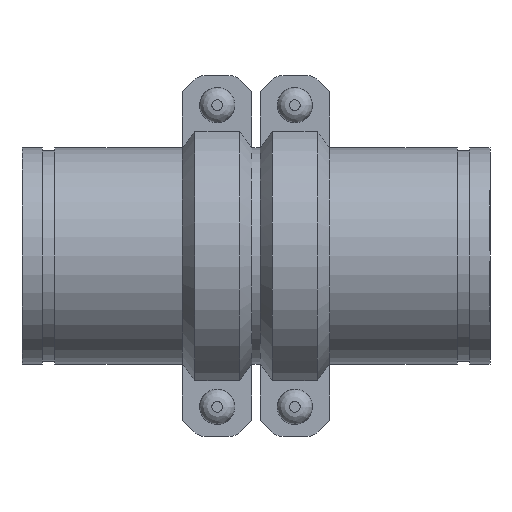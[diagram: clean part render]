
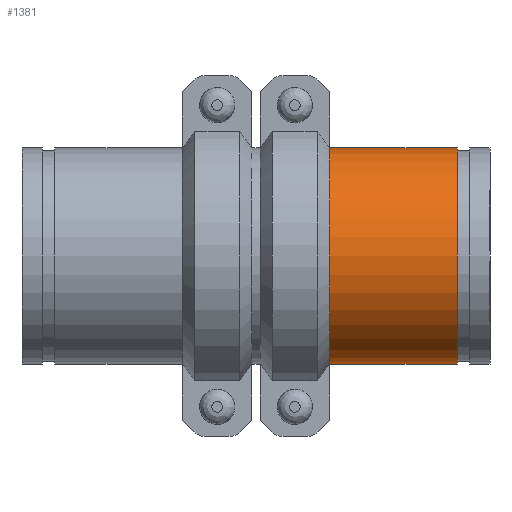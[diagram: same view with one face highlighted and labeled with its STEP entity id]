
A CAD part, front view. The second image highlights one B-rep face of the part: STEP entity #1381.
In plain terms, the highlighted cylindrical face has radius 84.138 mm (diameter 168.275 mm), a full revolution.
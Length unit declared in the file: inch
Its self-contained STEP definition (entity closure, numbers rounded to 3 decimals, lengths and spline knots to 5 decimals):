
#59=LINE('',#2197,#150);
#150=VECTOR('',#1772,3.3125);
#241=CYLINDRICAL_SURFACE('',#1566,3.3125);
#294=FACE_OUTER_BOUND('',#375,.T.);
#375=EDGE_LOOP('',(#908,#909,#910,#911,#912,#913));
#479=CIRCLE('',#1564,3.3125);
#480=CIRCLE('',#1565,3.3125);
#481=CIRCLE('',#1567,3.3125);
#482=CIRCLE('',#1568,3.3125);
#567=VERTEX_POINT('',#2188);
#568=VERTEX_POINT('',#2189);
#569=VERTEX_POINT('',#2193);
#570=VERTEX_POINT('',#2194);
#704=EDGE_CURVE('',#567,#568,#479,.T.);
#705=EDGE_CURVE('',#568,#567,#480,.T.);
#706=EDGE_CURVE('',#569,#570,#481,.T.);
#707=EDGE_CURVE('',#570,#569,#482,.T.);
#708=EDGE_CURVE('',#570,#568,#59,.T.);
#908=ORIENTED_EDGE('',*,*,#706,.F.);
#909=ORIENTED_EDGE('',*,*,#707,.F.);
#910=ORIENTED_EDGE('',*,*,#708,.T.);
#911=ORIENTED_EDGE('',*,*,#705,.T.);
#912=ORIENTED_EDGE('',*,*,#704,.T.);
#913=ORIENTED_EDGE('',*,*,#708,.F.);
#1381=ADVANCED_FACE('',(#294),#241,.T.);
#1564=AXIS2_PLACEMENT_3D('',#2190,#1762,#1763);
#1565=AXIS2_PLACEMENT_3D('',#2191,#1764,#1765);
#1566=AXIS2_PLACEMENT_3D('',#2192,#1766,#1767);
#1567=AXIS2_PLACEMENT_3D('',#2195,#1768,#1769);
#1568=AXIS2_PLACEMENT_3D('',#2196,#1770,#1771);
#1762=DIRECTION('center_axis',(-1.,0.,0.));
#1763=DIRECTION('ref_axis',(0.,0.,1.));
#1764=DIRECTION('center_axis',(-1.,0.,0.));
#1765=DIRECTION('ref_axis',(0.,0.,1.));
#1766=DIRECTION('center_axis',(-1.,0.,0.));
#1767=DIRECTION('ref_axis',(0.,1.,0.));
#1768=DIRECTION('center_axis',(-1.,0.,0.));
#1769=DIRECTION('ref_axis',(0.,0.,1.));
#1770=DIRECTION('center_axis',(-1.,0.,0.));
#1771=DIRECTION('ref_axis',(0.,0.,1.));
#1772=DIRECTION('',(1.,0.,0.));
#2188=CARTESIAN_POINT('',(1.9925,3.3125,0.));
#2189=CARTESIAN_POINT('',(1.9925,-3.3125,0.));
#2190=CARTESIAN_POINT('Origin',(1.9925,0.,0.));
#2191=CARTESIAN_POINT('Origin',(1.9925,0.,0.));
#2192=CARTESIAN_POINT('Origin',(0.,0.,
0.));
#2193=CARTESIAN_POINT('',(-1.9925,3.3125,0.));
#2194=CARTESIAN_POINT('',(-1.9925,-3.3125,0.));
#2195=CARTESIAN_POINT('Origin',(-1.9925,0.,0.));
#2196=CARTESIAN_POINT('Origin',(-1.9925,0.,0.));
#2197=CARTESIAN_POINT('',(0.,-3.3125,0.));
